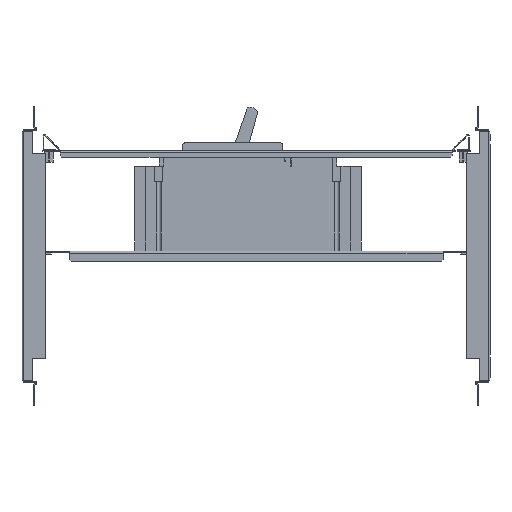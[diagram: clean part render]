
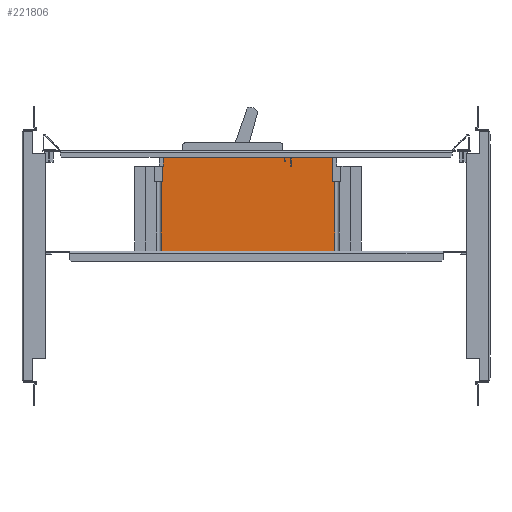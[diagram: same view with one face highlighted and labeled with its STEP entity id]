
A CAD part, front view. The second image highlights one B-rep face of the part: STEP entity #221806.
In plain terms, the highlighted planar face has unit normal (0, -1, 0).
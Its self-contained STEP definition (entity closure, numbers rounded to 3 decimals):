
#219631=CARTESIAN_POINT(' ',(34.489,-66.817,44.353));
#219636=DIRECTION(' ',(-1.,0.,0.));
#219641=VECTOR(' ',#219636,1.);
#219646=LINE('',#219631,#219641);
#219651=CARTESIAN_POINT(' ',(34.489,-66.817,44.353));
#219652=VERTEX_POINT(' ',#219651);
#219656=CARTESIAN_POINT(' ',(10.989,-66.817,44.353));
#219657=VERTEX_POINT(' ',#219656);
#219661=EDGE_CURVE(' ',#219652,#219657,#219646,.T.);
#220201=CARTESIAN_POINT(' ',(-80.011,-66.817,44.353));
#220202=VERTEX_POINT(' ',#220201);
#220346=CARTESIAN_POINT(' ',(-103.511,-66.817,44.353));
#220347=VERTEX_POINT(' ',#220346);
#220361=CARTESIAN_POINT(' ',(-80.011,-66.817,44.353));
#220366=DIRECTION(' ',(-1.,0.,0.));
#220371=VECTOR(' ',#220366,1.);
#220376=LINE('',#220361,#220371);
#220381=EDGE_CURVE(' ',#220202,#220347,#220376,.T.);
#220556=CARTESIAN_POINT(' ',(-80.011,-66.817,45.353));
#220561=DIRECTION(' ',(0.,0.,-1.));
#220566=VECTOR(' ',#220561,1.);
#220571=LINE('',#220556,#220566);
#220576=CARTESIAN_POINT(' ',(-80.011,-66.817,45.353));
#220577=VERTEX_POINT(' ',#220576);
#220581=EDGE_CURVE(' ',#220577,#220202,#220571,.T.);
#220666=CARTESIAN_POINT(' ',(-80.011,-66.817,45.353));
#220671=DIRECTION(' ',(1.,0.,0.));
#220676=VECTOR(' ',#220671,1.);
#220681=LINE('',#220666,#220676);
#220686=CARTESIAN_POINT(' ',(10.989,-66.817,45.353));
#220687=VERTEX_POINT(' ',#220686);
#220691=EDGE_CURVE(' ',#220577,#220687,#220681,.T.);
#220791=CARTESIAN_POINT(' ',(10.989,-66.817,45.353));
#220796=DIRECTION(' ',(0.,0.,-1.));
#220801=VECTOR(' ',#220796,1.);
#220806=LINE('',#220791,#220801);
#220811=EDGE_CURVE(' ',#220687,#219657,#220806,.T.);
#221156=DIRECTION(' ',(0.,-1.,0.));
#221161=CARTESIAN_POINT(' ',(83.694,-66.817,-65.647));
#221166=DIRECTION(' ',(0.,0.,1.));
#221171=AXIS2_PLACEMENT_3D(' ',#221161,#221156,#221166);
#221176=PLANE('NONE',#221171);
#221181=CARTESIAN_POINT(' ',(83.694,-66.817,12.353));
#221186=DIRECTION(' ',(-1.,0.,0.));
#221191=VECTOR(' ',#221186,1.);
#221196=LINE('',#221181,#221191);
#221201=CARTESIAN_POINT(' ',(83.694,-66.817,12.353));
#221202=VERTEX_POINT(' ',#221201);
#221206=CARTESIAN_POINT(' ',(81.739,-66.817,12.353));
#221207=VERTEX_POINT(' ',#221206);
#221211=EDGE_CURVE(' ',#221202,#221207,#221196,.T.);
#221216=ORIENTED_EDGE(' ',*,*,#221211,.T.);
#221221=CARTESIAN_POINT(' ',(81.739,-66.817,39.353));
#221226=DIRECTION(' ',(0.,0.,-1.));
#221231=VECTOR(' ',#221226,1.);
#221236=LINE('',#221221,#221231);
#221241=CARTESIAN_POINT(' ',(81.739,-66.817,39.353));
#221242=VERTEX_POINT(' ',#221241);
#221246=EDGE_CURVE(' ',#221242,#221207,#221236,.T.);
#221251=ORIENTED_EDGE(' ',*,*,#221246,.F.);
#221256=CARTESIAN_POINT(' ',(76.239,-66.817,39.353));
#221261=DIRECTION(' ',(1.,0.,0.));
#221266=VECTOR(' ',#221261,1.);
#221271=LINE('',#221256,#221266);
#221276=CARTESIAN_POINT(' ',(76.239,-66.817,39.353));
#221277=VERTEX_POINT(' ',#221276);
#221281=EDGE_CURVE(' ',#221277,#221242,#221271,.T.);
#221286=ORIENTED_EDGE(' ',*,*,#221281,.F.);
#221291=CARTESIAN_POINT(' ',(76.239,-66.817,44.753));
#221296=DIRECTION(' ',(0.,0.,-1.));
#221301=VECTOR(' ',#221296,1.);
#221306=LINE('',#221291,#221301);
#221311=CARTESIAN_POINT(' ',(76.239,-66.817,44.753));
#221312=VERTEX_POINT(' ',#221311);
#221316=EDGE_CURVE(' ',#221312,#221277,#221306,.T.);
#221321=ORIENTED_EDGE(' ',*,*,#221316,.F.);
#221326=CARTESIAN_POINT(' ',(34.739,-66.817,44.753));
#221331=DIRECTION(' ',(1.,0.,0.));
#221336=VECTOR(' ',#221331,1.);
#221341=LINE('',#221326,#221336);
#221346=CARTESIAN_POINT(' ',(34.739,-66.817,44.753));
#221347=VERTEX_POINT(' ',#221346);
#221351=EDGE_CURVE(' ',#221347,#221312,#221341,.T.);
#221356=ORIENTED_EDGE(' ',*,*,#221351,.F.);
#221361=CARTESIAN_POINT(' ',(34.739,-66.817,29.853));
#221366=DIRECTION(' ',(0.,0.,1.));
#221371=VECTOR(' ',#221366,1.);
#221376=LINE('',#221361,#221371);
#221381=CARTESIAN_POINT(' ',(34.739,-66.817,29.853));
#221382=VERTEX_POINT(' ',#221381);
#221386=EDGE_CURVE(' ',#221382,#221347,#221376,.T.);
#221391=ORIENTED_EDGE(' ',*,*,#221386,.F.);
#221396=CARTESIAN_POINT(' ',(34.489,-66.817,29.853));
#221401=DIRECTION(' ',(1.,0.,0.));
#221406=VECTOR(' ',#221401,1.);
#221411=LINE('',#221396,#221406);
#221416=CARTESIAN_POINT(' ',(34.489,-66.817,29.853));
#221417=VERTEX_POINT(' ',#221416);
#221421=EDGE_CURVE(' ',#221417,#221382,#221411,.T.);
#221426=ORIENTED_EDGE(' ',*,*,#221421,.F.);
#221431=CARTESIAN_POINT(' ',(34.489,-66.817,29.853));
#221436=DIRECTION(' ',(0.,0.,1.));
#221441=VECTOR(' ',#221436,1.);
#221446=LINE('',#221431,#221441);
#221451=EDGE_CURVE(' ',#221417,#219652,#221446,.T.);
#221456=ORIENTED_EDGE(' ',*,*,#221451,.T.);
#221461=ORIENTED_EDGE(' ',*,*,#219661,.T.);
#221466=ORIENTED_EDGE(' ',*,*,#220811,.F.);
#221471=ORIENTED_EDGE(' ',*,*,#220691,.F.);
#221476=ORIENTED_EDGE(' ',*,*,#220581,.T.);
#221481=ORIENTED_EDGE(' ',*,*,#220381,.T.);
#221486=CARTESIAN_POINT(' ',(-103.511,-66.817,44.353));
#221491=DIRECTION(' ',(0.,0.,-1.));
#221496=VECTOR(' ',#221491,1.);
#221501=LINE('',#221486,#221496);
#221506=CARTESIAN_POINT(' ',(-103.511,-66.817,39.353));
#221507=VERTEX_POINT(' ',#221506);
#221511=EDGE_CURVE(' ',#220347,#221507,#221501,.T.);
#221516=ORIENTED_EDGE(' ',*,*,#221511,.T.);
#221521=CARTESIAN_POINT(' ',(-103.511,-66.817,39.353));
#221526=DIRECTION(' ',(-1.,0.,0.));
#221531=VECTOR(' ',#221526,1.);
#221536=LINE('',#221521,#221531);
#221541=CARTESIAN_POINT(' ',(-108.761,-66.817,39.353));
#221542=VERTEX_POINT(' ',#221541);
#221546=EDGE_CURVE(' ',#221507,#221542,#221536,.T.);
#221551=ORIENTED_EDGE(' ',*,*,#221546,.T.);
#221556=CARTESIAN_POINT(' ',(-108.761,-66.817,39.353));
#221561=DIRECTION(' ',(0.,0.,-1.));
#221566=VECTOR(' ',#221561,1.);
#221571=LINE('',#221556,#221566);
#221576=CARTESIAN_POINT(' ',(-108.761,-66.817,29.853));
#221577=VERTEX_POINT(' ',#221576);
#221581=EDGE_CURVE(' ',#221542,#221577,#221571,.T.);
#221586=ORIENTED_EDGE(' ',*,*,#221581,.T.);
#221591=CARTESIAN_POINT(' ',(-109.261,-66.817,29.853));
#221596=DIRECTION(' ',(1.,0.,0.));
#221601=VECTOR(' ',#221596,1.);
#221606=LINE('',#221591,#221601);
#221611=CARTESIAN_POINT(' ',(-109.261,-66.817,29.853));
#221612=VERTEX_POINT(' ',#221611);
#221616=EDGE_CURVE(' ',#221612,#221577,#221606,.T.);
#221621=ORIENTED_EDGE(' ',*,*,#221616,.F.);
#221626=CARTESIAN_POINT(' ',(-109.261,-66.817,29.853));
#221631=DIRECTION(' ',(0.,0.,-1.));
#221636=VECTOR(' ',#221631,1.);
#221641=LINE('',#221626,#221636);
#221646=CARTESIAN_POINT(' ',(-109.261,-66.817,12.353));
#221647=VERTEX_POINT(' ',#221646);
#221651=EDGE_CURVE(' ',#221612,#221647,#221641,.T.);
#221656=ORIENTED_EDGE(' ',*,*,#221651,.T.);
#221661=CARTESIAN_POINT(' ',(-111.215,-66.817,12.353));
#221666=DIRECTION(' ',(1.,0.,0.));
#221671=VECTOR(' ',#221666,1.);
#221676=LINE('',#221661,#221671);
#221681=CARTESIAN_POINT(' ',(-111.215,-66.817,12.353));
#221682=VERTEX_POINT(' ',#221681);
#221686=EDGE_CURVE(' ',#221682,#221647,#221676,.T.);
#221691=ORIENTED_EDGE(' ',*,*,#221686,.F.);
#221696=CARTESIAN_POINT(' ',(-111.215,-66.817,12.353));
#221701=DIRECTION(' ',(0.,0.,-1.));
#221706=VECTOR(' ',#221701,1.);
#221711=LINE('',#221696,#221706);
#221716=CARTESIAN_POINT(' ',(-111.215,-66.817,-65.647));
#221717=VERTEX_POINT(' ',#221716);
#221721=EDGE_CURVE(' ',#221682,#221717,#221711,.T.);
#221726=ORIENTED_EDGE(' ',*,*,#221721,.T.);
#221731=CARTESIAN_POINT(' ',(83.694,-66.817,-65.647));
#221736=DIRECTION(' ',(-1.,0.,0.));
#221741=VECTOR(' ',#221736,1.);
#221746=LINE('',#221731,#221741);
#221751=CARTESIAN_POINT(' ',(83.694,-66.817,-65.647));
#221752=VERTEX_POINT(' ',#221751);
#221756=EDGE_CURVE(' ',#221752,#221717,#221746,.T.);
#221761=ORIENTED_EDGE(' ',*,*,#221756,.F.);
#221766=CARTESIAN_POINT(' ',(83.694,-66.817,-65.647));
#221771=DIRECTION(' ',(0.,0.,1.));
#221776=VECTOR(' ',#221771,1.);
#221781=LINE('',#221766,#221776);
#221786=EDGE_CURVE(' ',#221752,#221202,#221781,.T.);
#221791=ORIENTED_EDGE(' ',*,*,#221786,.T.);
#221796=EDGE_LOOP(' ',(#221216,#221251,#221286,#221321,#221356,#221391,#221426,#221456,#221461,#221466,#221471,#221476,#221481,#221516,#221551,#221586,#221621,#221656,#221691,#221726,#221761,#221791));
#221801=FACE_OUTER_BOUND(' ',#221796,.T.);
#221806=ADVANCED_FACE('NONE',(#221801),#221176,.T.);
